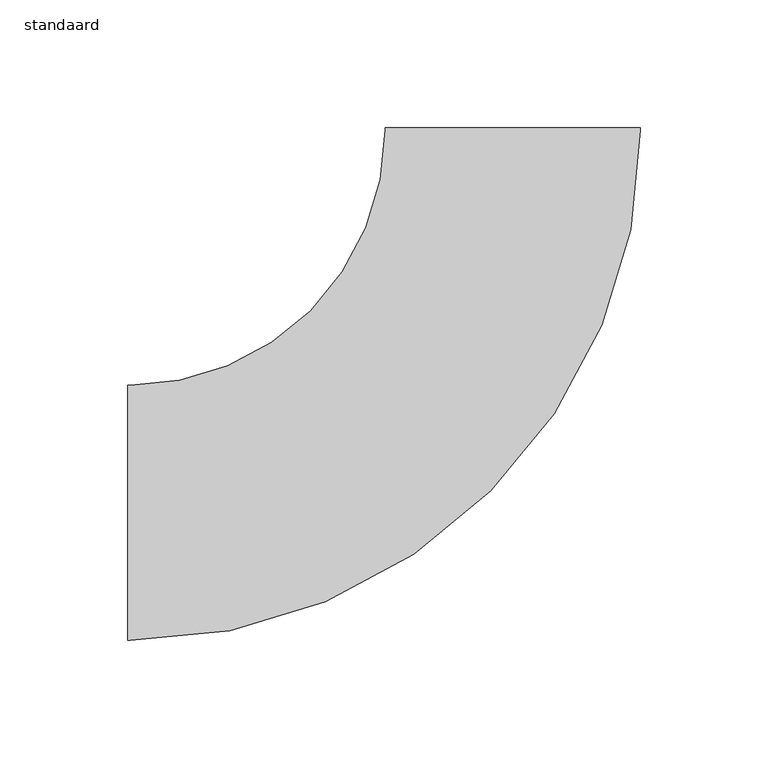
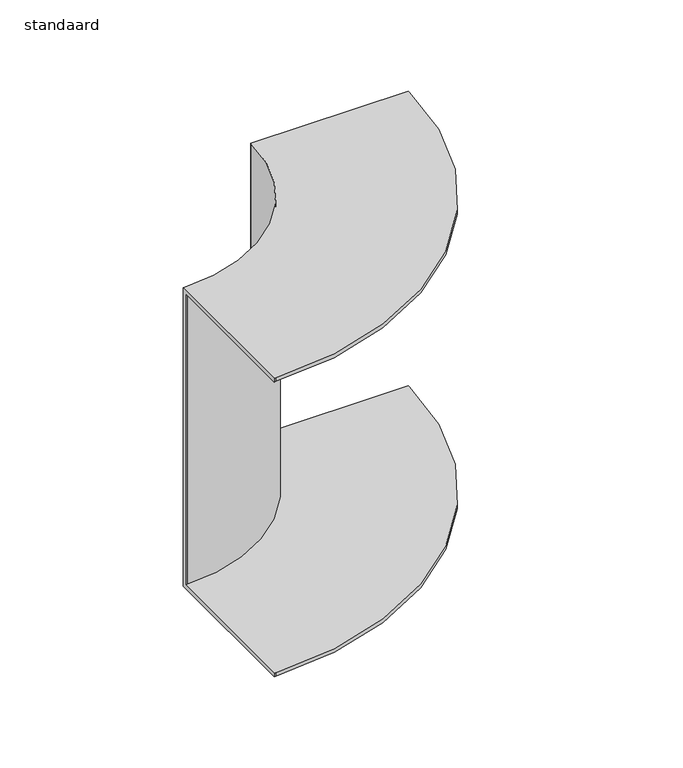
"""IFC4 building model written with IfcOpenShell, lengths in millimetres: cable carrier fitting geometry, AI_Raccord cdc_Coude desencdant : standaard."""

from ifc_helpers import new_model, si_unit, frame, origin, place, context, project, spatial, polyline, circle_curve, source, transform, mapped, element, save
from ifc_brep_helpers import plane_surface, cylinder_surface, revolved_surface, advanced_brep


def standaard_3adf7549(model_context):
    return source(origin(), model_context, "Body", "AdvancedBrep", [
        advanced_brep(
        [(-151.0, -50.0, 100.0), (-151.0, 50.0, 100.0), (-151.0, 50.0, -100.0), (-151.0, -50.0, -100.0), (-151.0, -50.0, -97.46), (-151.0, 47.46, -97.46), (-151.0, 47.46, 97.46), (-151.0, -50.0, 97.46), (50.0, 151.0, 100.0), (50.0, 151.0, 97.46), (-47.46, 151.0, 97.46), (-47.46, 151.0, -97.46), (50.0, 151.0, -97.46), (50.0, 151.0, -100.0), (-50.0, 151.0, -100.0), (-50.0, 151.0, 100.0), (-150.0, -50.0, 100.0), (50.0, 150.0, 100.0), (-50.0, 150.0, 100.0), (-150.0, 50.0, 100.0), (-150.0, 50.0, -100.0), (-50.0, 150.0, -100.0), (50.0, 150.0, -100.0), (-150.0, -50.0, -100.0), (-150.0, -50.0, -97.46), (50.0, 150.0, -97.46), (-47.46, 150.0, -97.46), (-150.0, 47.46, -97.46), (-150.0, 47.46, 97.46), (-47.46, 150.0, 97.46), (50.0, 150.0, 97.46), (-150.0, -50.0, 97.46)],
        [
            (0, 1),
            (1, 2),
            (2, 3),
            (3, 4),
            (4, 5),
            (5, 6),
            (6, 7),
            (7, 0),
            (8, 9),
            (9, 10),
            (10, 11),
            (11, 12),
            (12, 13),
            (13, 14),
            (14, 15),
            (15, 8),
            (0, 16),
            (16, 17, circle_curve(frame((-150.0, 150.0, 100.0), z_axis=(0.0, 0.0, 1.0), x_axis=(0.0, -1.0, 0.0)), 200.0)),
            (17, 8),
            (15, 18),
            (18, 19, circle_curve(frame((-150.0, 150.0, 100.0), z_axis=(0.0, 0.0, -1.0), x_axis=(0.0, -1.0, 0.0)), 100.0)),
            (19, 1),
            (19, 20),
            (20, 2),
            (20, 21, circle_curve(frame((-150.0, 150.0, -100.0), z_axis=(0.0, 0.0, 1.0), x_axis=(0.0, -1.0, 0.0)), 100.0)),
            (21, 14),
            (13, 22),
            (22, 23, circle_curve(frame((-150.0, 150.0, -100.0), z_axis=(0.0, 0.0, -1.0), x_axis=(0.0, -1.0, 0.0)), 200.0)),
            (23, 3),
            (23, 24),
            (24, 4),
            (24, 25, circle_curve(frame((-150.0, 150.0, -97.46), z_axis=(0.0, 0.0, 1.0), x_axis=(0.0, -1.0, 0.0)), 200.0)),
            (25, 12),
            (11, 26),
            (26, 27, circle_curve(frame((-150.0, 150.0, -97.46), z_axis=(0.0, 0.0, -1.0), x_axis=(0.0, -1.0, 0.0)), 102.54)),
            (27, 5),
            (27, 28),
            (28, 6),
            (28, 29, circle_curve(frame((-150.0, 150.0, 97.46), z_axis=(0.0, 0.0, 1.0), x_axis=(0.0, -1.0, 0.0)), 102.54)),
            (29, 10),
            (9, 30),
            (30, 31, circle_curve(frame((-150.0, 150.0, 97.46), z_axis=(0.0, 0.0, -1.0), x_axis=(0.0, -1.0, 0.0)), 200.0)),
            (31, 7),
            (31, 16),
            (18, 21),
            (22, 25),
            (26, 29),
            (30, 17),
        ],
        [
            plane_surface(frame((-151.0, 0.0, 0.0), z_axis=(-1.0, -4.889821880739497e-12, 0.0), x_axis=(0.0, 0.0, 1.0))),
            plane_surface(frame((0.0, 151.0, 0.0), z_axis=(0.0, 1.0, 0.0), x_axis=(0.0, 0.0, 1.0))),
            plane_surface(frame((-151.0, -50.0, 100.0), z_axis=(0.0, 0.0, 1.0), x_axis=(1.0, 4.906741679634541e-12, 0.0))),
            plane_surface(frame((-151.0, 50.0, 100.0), z_axis=(-4.889821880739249e-12, 1.0, 0.0), x_axis=(1.0, 4.889821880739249e-12, 0.0))),
            plane_surface(frame((-151.0, 50.0, -100.0), z_axis=(0.0, 0.0, -1.0), x_axis=(1.0, 4.889821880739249e-12, 0.0))),
            plane_surface(frame((-151.0, -50.0, -100.0), z_axis=(4.906741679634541e-12, -1.0, 0.0), x_axis=(1.0, 4.906741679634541e-12, 0.0))),
            plane_surface(frame((-151.0, -50.0, -97.46), z_axis=(0.0, 0.0, 1.0), x_axis=(1.0, 4.906741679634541e-12, 0.0))),
            plane_surface(frame((-151.0, 47.46, -97.46), z_axis=(4.889821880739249e-12, -1.0, 0.0), x_axis=(1.0, 4.889821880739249e-12, 0.0))),
            plane_surface(frame((-151.0, 47.46, 97.46), z_axis=(0.0, 0.0, -1.0), x_axis=(1.0, 4.889821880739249e-12, 0.0))),
            plane_surface(frame((-151.0, -50.0, 97.46), z_axis=(4.906741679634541e-12, -1.0, 0.0), x_axis=(1.0, 4.906741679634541e-12, 0.0))),
            revolved_surface(polyline([(-150.0, 50.0, 100.0), (-150.0, 50.0, -100.0)]), (-150.0, 150.0, 0.0), (0.0, 0.0, 1.0)),
            cylinder_surface(frame((-150.0, 150.0, 0.0), z_axis=(0.0, 0.0, 1.0), x_axis=(0.0, -1.0, 0.0)), 200.0),
            cylinder_surface(frame((-150.0, 150.0, 0.0), z_axis=(0.0, 0.0, 1.0), x_axis=(0.0, -1.0, 0.0)), 102.54),
            plane_surface(frame((-50.0, 150.0, 100.0), z_axis=(-1.0, 0.0, 0.0), x_axis=(0.0, 1.0, 0.0))),
            plane_surface(frame((50.0, 150.0, -100.0), z_axis=(1.0, 0.0, 0.0), x_axis=(0.0, 1.0, 0.0))),
            plane_surface(frame((-47.46, 150.0, -97.46), z_axis=(1.0, 0.0, 0.0), x_axis=(0.0, 1.0, 0.0))),
            plane_surface(frame((50.0, 150.0, 97.46), z_axis=(1.0, 0.0, 0.0), x_axis=(0.0, 1.0, 0.0))),
        ],
        [
            (0, [[1, 2, 3, 4, 5, 6, 7, 8]]),
            (1, [[9, 10, 11, 12, 13, 14, 15, 16]]),
            (2, [[-1, 17, 18, 19, -16, 20, 21, 22]]),
            (3, [[-2, -22, 23, 24]]),
            (4, [[-3, -24, 25, 26, -14, 27, 28, 29]]),
            (5, [[-4, -29, 30, 31]]),
            (6, [[-5, -31, 32, 33, -12, 34, 35, 36]]),
            (7, [[-6, -36, 37, 38]]),
            (8, [[-7, -38, 39, 40, -10, 41, 42, 43]]),
            (9, [[-8, -43, 44, -17]]),
            (10, [[-25, -23, -21, 45]]),
            (11, [[-32, -30, -28, 46]]),
            (12, [[-39, -37, -35, 47]]),
            (11, [[-18, -44, -42, 48]]),
            (13, [[-45, -20, -15, -26]]),
            (14, [[-46, -27, -13, -33]]),
            (15, [[-47, -34, -11, -40]]),
            (16, [[-48, -41, -9, -19]]),
        ],
    ),
    ])


if __name__ == "__main__":
    model = new_model("IFC4")
    model_context = context("Model", 3, world=origin())
    ifc_project = project(units=[si_unit("LENGTHUNIT", "METRE", prefix="MILLI")], contexts=[model_context])
    site = spatial("IfcSite", under=ifc_project)
    building = spatial("IfcBuilding", under=site)
    placement = place(None, origin())
    standaard_shape = standaard_3adf7549(model_context)
    element("IfcCableCarrierFitting", 1, ObjectType="AI_Raccord cdc_Coude desencdant : standaard", at=placement, inside=building, context=model_context, shape_type="MappedRepresentation", body=[
        mapped(standaard_shape, transform((0.0, 0.0, 0.0), x_axis=(1.0, 0.0, 0.0), y_axis=(0.0, 1.0, 0.0), z_axis=(0.0, 0.0, 1.0))),
    ])
    save(model, "model.ifc")
